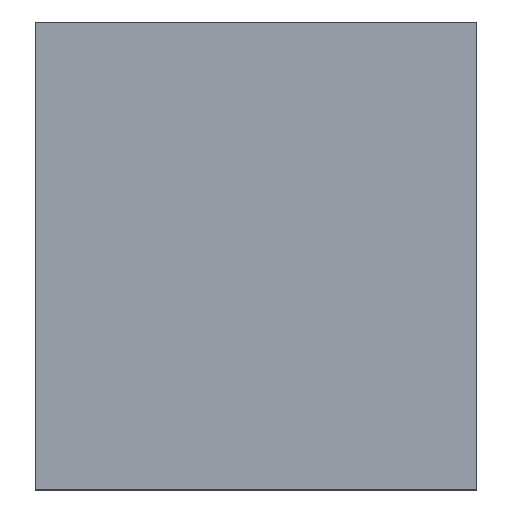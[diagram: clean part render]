
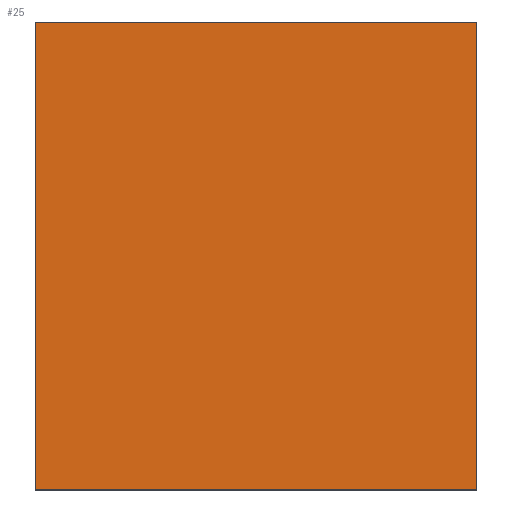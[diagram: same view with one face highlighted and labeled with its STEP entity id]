
A CAD part, top view. The second image highlights one B-rep face of the part: STEP entity #25.
In plain terms, the highlighted planar face has unit normal (0, 0, 1).
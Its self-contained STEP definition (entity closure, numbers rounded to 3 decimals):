
#10 = EDGE_CURVE ( 'NONE', #12, #202, #63, .T. ) ;
#12 = VERTEX_POINT ( 'NONE', #65 ) ;
#20 = ORIENTED_EDGE ( 'NONE', *, *, #128, .T. ) ;
#21 = DIRECTION ( 'NONE',  ( 1., 0., 0. ) ) ;
#24 = CARTESIAN_POINT ( 'NONE',  ( 0., 0., 0.19 ) ) ;
#25 = ADVANCED_FACE ( 'NONE', ( #83 ), #221, .T. ) ;
#26 = LINE ( 'NONE', #174, #95 ) ;
#38 = VECTOR ( 'NONE', #223, 1000. ) ;
#46 = DIRECTION ( 'NONE',  ( 1., 0., 0. ) ) ;
#49 = AXIS2_PLACEMENT_3D ( 'NONE', #24, #122, #21 ) ;
#58 = CARTESIAN_POINT ( 'NONE',  ( 37., 39.2, 0.19 ) ) ;
#63 = LINE ( 'NONE', #58, #228 ) ;
#65 = CARTESIAN_POINT ( 'NONE',  ( 37., -39.2, 0.19 ) ) ;
#71 = CARTESIAN_POINT ( 'NONE',  ( -37., 39.2, 0.19 ) ) ;
#83 = FACE_OUTER_BOUND ( 'NONE', #204, .T. ) ;
#91 = CARTESIAN_POINT ( 'NONE',  ( -37., -39.2, 0.19 ) ) ;
#94 = LINE ( 'NONE', #71, #38 ) ;
#95 = VECTOR ( 'NONE', #159, 1000. ) ;
#100 = ORIENTED_EDGE ( 'NONE', *, *, #126, .T. ) ;
#116 = VERTEX_POINT ( 'NONE', #127 ) ;
#122 = DIRECTION ( 'NONE',  ( 0., 0., 1. ) ) ;
#126 = EDGE_CURVE ( 'NONE', #116, #203, #26, .T. ) ;
#127 = CARTESIAN_POINT ( 'NONE',  ( -37., 39.2, 0.19 ) ) ;
#128 = EDGE_CURVE ( 'NONE', #202, #116, #94, .T. ) ;
#147 = CARTESIAN_POINT ( 'NONE',  ( 37., 39.2, 0.19 ) ) ;
#152 = ORIENTED_EDGE ( 'NONE', *, *, #229, .T. ) ;
#159 = DIRECTION ( 'NONE',  ( 0., -1., 0. ) ) ;
#161 = LINE ( 'NONE', #91, #175 ) ;
#174 = CARTESIAN_POINT ( 'NONE',  ( -37., 39.2, 0.19 ) ) ;
#175 = VECTOR ( 'NONE', #46, 1000. ) ;
#194 = CARTESIAN_POINT ( 'NONE',  ( -37., -39.2, 0.19 ) ) ;
#202 = VERTEX_POINT ( 'NONE', #147 ) ;
#203 = VERTEX_POINT ( 'NONE', #194 ) ;
#204 = EDGE_LOOP ( 'NONE', ( #100, #152, #237, #20 ) ) ;
#221 = PLANE ( 'NONE',  #49 ) ;
#222 = DIRECTION ( 'NONE',  ( 0., 1., 0. ) ) ;
#223 = DIRECTION ( 'NONE',  ( -1., 0., 0. ) ) ;
#228 = VECTOR ( 'NONE', #222, 1000. ) ;
#229 = EDGE_CURVE ( 'NONE', #203, #12, #161, .T. ) ;
#237 = ORIENTED_EDGE ( 'NONE', *, *, #10, .T. ) ;
